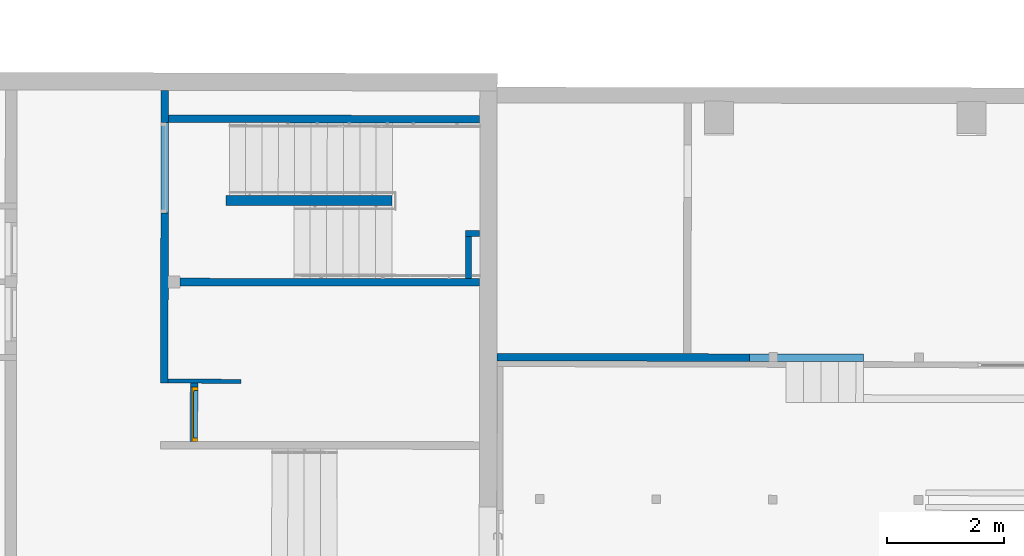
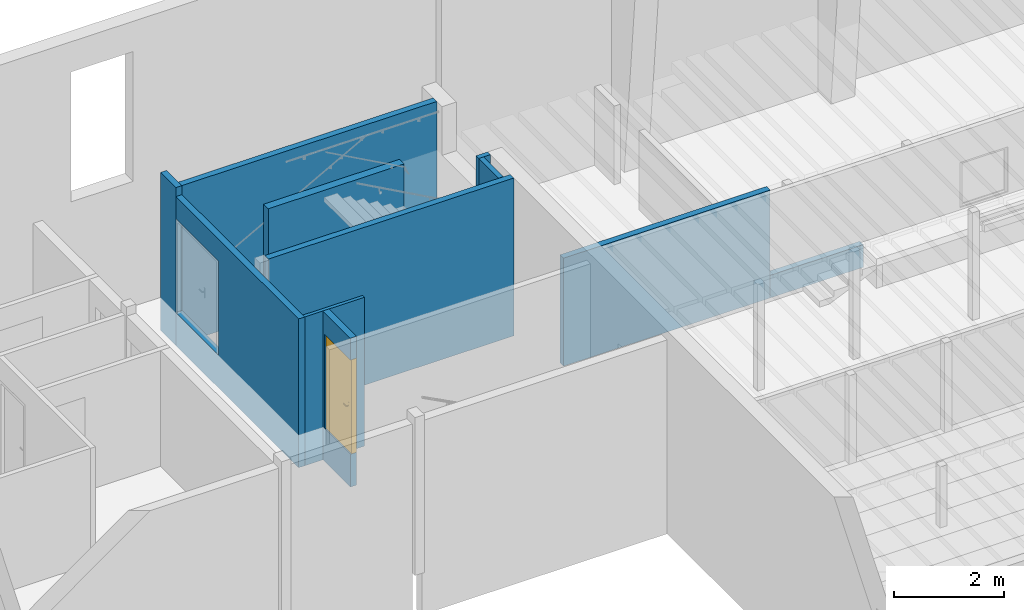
# One storey, part 8 of 24: 11 walls, 1 door, 3 openings.
"""IFC2X3 building model written with IfcOpenShell, lengths in metres."""

from ifc_helpers import new_model, entity, si_unit, converted_unit, derived_unit, direction, frame, frame_2d, origin, place, context, subcontext, project, spatial, polyline, rectangle, outline, extrude, clip, bounded_halfspace, faceted_brep, source, transform, mapped, material, material_list, layer, layer_set, layer_usage, type_object, type_shapes, element, fill, save


model = new_model("IFC2X3")

# Units and contexts
model_context = context("Model", 3, precision=1e-05, world=origin(), true_north=direction((6.123233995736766e-17, 1.0)))
body_context = subcontext(model_context, "Body", "Model", "MODEL_VIEW")
ifc_project = project(units=[si_unit("LENGTHUNIT", "METRE"), si_unit("AREAUNIT", "SQUARE_METRE"), converted_unit("PLANEANGLEUNIT", "DEGREE", entity("IfcPlaneAngleMeasure", 0.017453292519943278), si_unit("PLANEANGLEUNIT", "RADIAN"), dimensions=[0, 0, 0, 0, 0, 0, 0]), derived_unit("THERMALTRANSMITTANCEUNIT", [(si_unit("MASSUNIT", "GRAM", prefix="KILO"), 1), (si_unit("THERMODYNAMICTEMPERATUREUNIT", "KELVIN"), -1), (si_unit("TIMEUNIT", "SECOND"), -3)])], contexts=[model_context])

# Site, building, storey
site_placement = place(None, frame((1253.6752467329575, 2072.143113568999, 91.49999999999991), z_axis=(0.0, 0.0, 1.0), x_axis=(0.7237211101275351, 0.6900925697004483, 0.0)))
site = spatial("IfcSite", under=ifc_project, at=site_placement, Name="Surface", CompositionType="ELEMENT")
building_placement = place(site_placement, origin())
building = spatial("IfcBuilding", under=site, at=building_placement, CompositionType="ELEMENT")
storey_placement = place(building_placement, frame((0.0, 0.0, -7.049999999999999)))
storey = spatial("IfcBuildingStorey", under=building, at=storey_placement, Name="R-1", CompositionType="ELEMENT", Elevation=-7.049999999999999)

# Walls
ifc_material_1 = material(Name="OMD_Béton blanc")
ifc_layer_1 = layer(ifc_material_1, 0.12999999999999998)
ifc_layer_set_1 = layer_set([ifc_layer_1], Name="Mur de base:MUR 13")
ifc_layer_usage_1 = layer_usage(ifc_layer_set_1, "AXIS2", "NEGATIVE", 0.06499999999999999)
wall_type_1 = type_object("IfcWallType", Name="Mur de base:MUR 13", PredefinedType="STANDARD", material=ifc_layer_set_1)
wall_1_placement = place(storey_placement, frame((171.54955705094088, 21.444227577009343, 0.0), z_axis=(0.0, 0.0, 1.0), x_axis=(0.6909838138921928, 0.7228702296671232, 0.0)))
element("IfcWallStandardCase", 1, at=wall_1_placement, inside=storey, type_object=wall_type_1, material=ifc_layer_usage_1, Name="Mur de base:MUR 13", ObjectType="Mur de base:MUR 13", context=body_context, shape_type="SweptSolid", body=[
    extrude(outline(polyline([(-0.051578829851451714, -0.30688502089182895), (0.07842129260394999, -0.30688502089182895), (0.07765961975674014, 0.2480422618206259), (-0.05234025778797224, 0.2478638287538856), (-0.052161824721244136, 0.11786395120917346), (-0.051578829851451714, -0.30688502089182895)])), frame((0.24793543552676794, -0.013000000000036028, 0.0), z_axis=(0.0, 0.0, 1.0), x_axis=(0.0013725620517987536, 0.9999990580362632, 0.0)), (0.0, 0.0, 1.0), 3.499999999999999),
])
ifc_layer_usage_2 = layer_usage(ifc_layer_set_1, "AXIS2", "NEGATIVE", 0.06499999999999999)
wall_2_placement = place(storey_placement, frame((175.50226419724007, 17.755796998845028, 0.0), z_axis=(0.0, 0.0, 1.0), x_axis=(-0.7228702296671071, 0.6909838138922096, 0.0)))
element("IfcWallStandardCase", 2, at=wall_2_placement, inside=storey, type_object=wall_type_1, material=ifc_layer_usage_2, Name="Mur de base:MUR 13", ObjectType="Mur de base:MUR 13", context=body_context, shape_type="SweptSolid", body=[
    extrude(rectangle(XDim=5.340940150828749, YDim=0.12999999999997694, at=frame_2d((2.6704700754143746, 1.0547118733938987e-15), x_axis=(-1.0, 0.0))), origin(), (0.0, 0.0, 1.0), 3.499999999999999),
])
ifc_layer_usage_3 = layer_usage(ifc_layer_set_1, "AXIS2", "NEGATIVE", 0.06499999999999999)
wall_3_placement = place(storey_placement, frame((173.56750951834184, 15.731760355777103, 0.0), z_axis=(0.0, 0.0, 1.0), x_axis=(-0.7228702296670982, 0.6909838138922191, 0.0)))
element("IfcWallStandardCase", 3, at=wall_3_placement, inside=storey, type_object=wall_type_1, material=ifc_layer_usage_3, Name="Mur de base:MUR 13", ObjectType="Mur de base:MUR 13", context=body_context, shape_type="SweptSolid", body=[
    extrude(rectangle(XDim=5.140940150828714, YDim=0.1300000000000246, at=frame_2d((2.570470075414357, -6.314393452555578e-16), x_axis=(-1.0, 0.0))), origin(), (0.0, 0.0, 1.0), 3.499999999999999),
])
ifc_layer_usage_4 = layer_usage(ifc_layer_set_1, "AXIS2", "NEGATIVE", 0.06499999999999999)
wall_4_placement = place(storey_placement, frame((172.8964582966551, 14.5955789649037, 0.0), z_axis=(0.0, 0.0, 1.0), x_axis=(0.722870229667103, -0.6909838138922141, 0.0)))
element("IfcWallStandardCase", 4, at=wall_4_placement, inside=storey, type_object=wall_type_1, material=ifc_layer_usage_4, Name="Mur de base:MUR 13", ObjectType="Mur de base:MUR 13", context=body_context, shape_type="SweptSolid", body=[
    extrude(rectangle(XDim=4.333605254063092, YDim=0.13000000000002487, at=frame_2d((2.166802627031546, -7.7021722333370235e-16), x_axis=(-1.0, 0.0))), origin(), (0.0, 0.0, 1.0), 2.395000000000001),
])

# Wall, openings
ifc_layer_usage_5 = layer_usage(ifc_layer_set_1, "AXIS2", "POSITIVE", -0.06499999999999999)
wall_5_placement = place(storey_placement, frame((171.9330059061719, 21.845365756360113, 0.0), z_axis=(0.0, 0.0, 1.0), x_axis=(-0.6909838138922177, -0.7228702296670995, 0.0)))
wall_5 = element("IfcWallStandardCase", 5, at=wall_5_placement, inside=storey, type_object=wall_type_1, material=ifc_layer_usage_5, Name="Mur de base:MUR 13", ObjectType="Mur de base:MUR 13", context=body_context, shape_type="SweptSolid", body=[
    extrude(outline(polyline([(-0.07244415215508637, -2.0239981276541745), (0.05755633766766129, -2.0239981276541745), (0.05736417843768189, -1.9539981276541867), (0.04376181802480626, 3.001086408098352), (-0.08623818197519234, 3.000907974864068), (-0.07244415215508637, -2.0239981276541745)])), frame((3.0011334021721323, 0.013000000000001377, 0.0), z_axis=(0.0, 0.0, 1.0), x_axis=(0.0027451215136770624, 0.9999962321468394, 0.0)), (0.0, 0.0, 1.0), 3.2999999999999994),
])
opening_1_placement = place(storey_placement, frame((171.9330059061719, 21.845365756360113, 0.0), z_axis=(0.0, 0.0, 1.0), x_axis=(-0.6909838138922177, -0.7228702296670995, 0.0)))
element("IfcOpeningElement", 6, at=opening_1_placement, cuts=wall_5, Name="Mur de base:MUR 13:1", ObjectType="Opening", context=body_context, shape_type="SweptSolid", body=[
    extrude(rectangle(XDim=2.085, YDim=1.5499999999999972, at=frame_2d((-3.3306690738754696e-16, -3.164135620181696e-15), x_axis=(1.0, 0.0))), frame((1.3299250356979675, 0.06499999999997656, 1.7725), z_axis=(0.0, -1.0, 0.0), x_axis=(0.0, 0.0, 1.0)), (0.0, 0.0, 1.0), 0.13000000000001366),
])
opening_2_placement = place(wall_5_placement, frame((0.554925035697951, -0.06500000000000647, 0.7299999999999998)))
element("IfcOpeningElement", 7, at=opening_2_placement, cuts=wall_5, Name="OMD_Porte 2V tunnel:140x204:1", ObjectType="Opening", context=body_context, shape_type="SweptSolid", body=[
    extrude(rectangle(XDim=2.085, YDim=1.5499999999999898, at=frame_2d((1.0425, 0.7749999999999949), x_axis=(1.0, 0.0))), frame((0.0, 0.0, 0.0), z_axis=(0.0, 1.0, 0.0), x_axis=(0.0, 0.0, 1.0)), (0.0, 0.0, 1.0), 0.12999999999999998),
])

# Wall, opening, door
wall_6_placement = place(storey_placement, frame((168.13635503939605, 17.139570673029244, 0.0), z_axis=(0.0, 0.0, 1.0), x_axis=(0.6929655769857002, 0.7209706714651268, 0.0)))
wall_6 = element("IfcWall", 8, at=wall_6_placement, inside=storey, type_object=wall_type_1, Name="Mur de base:MUR 13", ObjectType="Mur de base:MUR 13", context=body_context, shape_type="Brep", body=[
    faceted_brep([(0.9986040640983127, -0.06500000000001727, 3.2999999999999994), (0.00035686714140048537, -0.06500000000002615, 3.2999999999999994), (0.0003568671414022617, -0.0650000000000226, 2.815000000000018), (0.9336040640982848, -0.06500000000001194, 2.815000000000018), (0.9336040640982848, -0.06500000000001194, 0.7299999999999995), (0.00035686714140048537, -0.06500000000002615, 0.7299999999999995), (0.00035686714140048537, -0.06500000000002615, 0.0), (0.9986040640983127, -0.06500000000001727, 0.0), (0.0, 0.06499999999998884, 3.2999999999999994), (0.9986040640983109, 0.06500000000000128, 3.2999999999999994), (0.9986040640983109, 0.06500000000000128, 0.0), (0.0, 0.06499999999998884, 0.0), (0.0, 0.06499999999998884, 0.7299999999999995), (0.9336040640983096, 0.0649999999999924, 0.7299999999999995), (0.933604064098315, 0.06499999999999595, 2.815000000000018), (0.0, 0.06499999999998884, 2.815000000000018)], [[[0, 1, 2, 3, 4, 5, 6, 7]], [[8, 9, 10, 11, 12, 13, 14, 15]], [[1, 0, 9, 8]], [[7, 6, 11, 10]], [[11, 6, 5, 12]], [[0, 7, 10, 9]], [[14, 3, 2, 15]], [[3, 14, 13, 4]], [[4, 13, 12, 5]], [[1, 8, 15, 2]]]),
])
opening_3_placement = place(wall_6_placement, frame((-0.0013959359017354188, -0.06500000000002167, 0.7299999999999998)))
opening_3 = element("IfcOpeningElement", 9, at=opening_3_placement, cuts=wall_6, Name="OMD_Porte 1V tunnel:80x204:1", ObjectType="Opening", context=body_context, shape_type="SweptSolid", body=[
    extrude(rectangle(XDim=2.0850000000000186, YDim=0.9349999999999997, at=frame_2d((1.0425000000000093, 0.4675000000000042), x_axis=(1.0, 0.0))), frame((0.0, 0.0, 0.0), z_axis=(0.0, 1.0, 0.0), x_axis=(0.0, 0.0, 1.0)), (0.0, 0.0, 1.0), 0.12999999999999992),
])
ifc_material_2 = material(Name="Porte - Poignée")
ifc_material_3 = material(Name="OMD_Peinture mur")
ifc_material_4 = material(Name="OMD_Bois")
ifc_material_list = material_list([ifc_material_2, ifc_material_3, ifc_material_4])
door_style = type_object("IfcDoorStyle", Name="OMD_Porte 1V tunnel:80x204", ConstructionType="NOTDEFINED", OperationType="NOTDEFINED", ParameterTakesPrecedence=False, Sizeable=False, material=ifc_material_list)
shared_shape = source(origin(), body_context, "Body", "Brep", [
    faceted_brep([(0.8220252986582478, 0.06500000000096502, 1.0077804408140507), (0.8179747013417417, 0.06500000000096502, 1.007780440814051), (0.8139999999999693, 0.06500000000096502, 1.00699999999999), (0.8139999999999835, 0.06500000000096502, 0.9930000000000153), (0.8179747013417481, 0.06500000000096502, 0.9922195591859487), (0.8220252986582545, 0.06500000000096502, 0.9922195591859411), (0.8260000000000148, 0.06500000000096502, 0.9929999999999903), (0.826000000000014, 0.06500000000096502, 1.006999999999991), (0.8139999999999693, 0.08748520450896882, 1.00699999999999), (0.8139999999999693, 0.08748520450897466, 0.9930000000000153), (0.8179747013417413, 0.08913157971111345, 1.007780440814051), (0.8220252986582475, 0.09080939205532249, 1.0077804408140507), (0.8058389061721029, 0.10699578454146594, 1.0077804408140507), (0.8041610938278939, 0.10294518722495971, 1.007780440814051), (0.7207931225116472, 0.10294518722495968, 1.0077804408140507), (0.7191153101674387, 0.10699578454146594, 1.0077804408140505), (0.7114510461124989, 0.09933152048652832, 1.0077804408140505), (0.714315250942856, 0.09646731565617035, 1.0077804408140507), (0.8260000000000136, 0.09245576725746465, 1.006999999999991), (0.8260000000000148, 0.09245576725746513, 0.9929999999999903), (0.8220252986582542, 0.0908093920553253, 0.9922195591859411), (0.8179747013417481, 0.08913157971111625, 0.9922195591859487), (0.8041610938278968, 0.10294518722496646, 0.9922195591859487), (0.8058389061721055, 0.1069957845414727, 0.9922195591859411), (0.7191153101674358, 0.10699578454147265, 0.9922195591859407), (0.7207931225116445, 0.10294518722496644, 0.9922195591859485), (0.7143152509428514, 0.09646731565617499, 0.9922195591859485), (0.7114510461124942, 0.09933152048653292, 0.9922195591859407), (0.8025147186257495, 0.09897048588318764, 1.00699999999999), (0.8025147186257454, 0.09897048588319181, 0.9930000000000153), (0.8074852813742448, 0.11097048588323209, 1.006999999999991), (0.8074852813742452, 0.11097048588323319, 0.9929999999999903), (0.7624771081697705, 0.09897048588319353, 1.0069999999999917), (0.7224394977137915, 0.09897048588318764, 1.0069999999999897), (0.7224394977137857, 0.09897048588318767, 0.9930000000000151), (0.7624771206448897, 0.09897048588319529, 0.9930000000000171), (0.7624771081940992, 0.10512492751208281, 1.0078781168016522), (0.7573994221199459, 0.1109704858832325, 1.0069999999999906), (0.7174689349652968, 0.11097048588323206, 1.0069999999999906), (0.7675547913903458, 0.11097048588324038, 0.9929999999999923), (0.7174689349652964, 0.11097048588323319, 0.99299999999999), (0.762477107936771, 0.10512492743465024, 0.9921218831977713), (0.7086405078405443, 0.10214205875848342, 1.0069999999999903), (0.7086405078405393, 0.10214205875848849, 0.9929999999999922), (0.7171257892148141, 0.09365677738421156, 0.9930000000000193), (0.71712578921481, 0.09365677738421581, 1.0069999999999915)], [[[0, 1, 2, 3, 4, 5, 6, 7]], [[8, 9, 3, 2]], [[1, 10, 8, 2]], [[1, 0, 11, 12, 13, 10]], [[14, 15, 16, 17]], [[7, 18, 11, 0]], [[18, 7, 6, 19]], [[6, 5, 20, 19]], [[5, 4, 21, 22, 23, 20]], [[24, 25, 26, 27]], [[4, 3, 9, 21]], [[28, 29, 9, 8]], [[8, 10, 13, 28]], [[18, 30, 12, 11]], [[31, 30, 18, 19]], [[19, 20, 23, 31]], [[21, 9, 29, 22]], [[29, 28, 32, 33, 34, 35]], [[36, 32, 13]], [[37, 38, 15]], [[37, 12, 30]], [[36, 12, 37]], [[14, 32, 36]], [[36, 15, 14]], [[28, 13, 32]], [[32, 14, 33]], [[12, 36, 13]], [[15, 36, 37]], [[30, 31, 39, 40, 38, 37]], [[23, 41, 39]], [[24, 39, 41]], [[39, 31, 23]], [[39, 24, 40]], [[22, 35, 41]], [[41, 23, 22]], [[41, 35, 25]], [[35, 22, 29]], [[34, 25, 35]], [[24, 41, 25]], [[17, 16, 42, 43, 27, 26, 44, 45]], [[45, 44, 34, 33]], [[33, 14, 17, 45]], [[15, 38, 42, 16]], [[43, 42, 38, 40]], [[24, 27, 43, 40]], [[34, 44, 26, 25]]]),
    faceted_brep([(0.817974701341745, 0.02500000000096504, 1.007780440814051), (0.8220252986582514, 0.02500000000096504, 1.0077804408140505), (0.8260000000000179, 0.02500000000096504, 1.0069999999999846), (0.8260000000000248, 0.02500000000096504, 0.9929999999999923), (0.8220252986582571, 0.02500000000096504, 0.992219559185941), (0.817974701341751, 0.02500000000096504, 0.9922195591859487), (0.8139999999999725, 0.02500000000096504, 0.9930000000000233), (0.8139999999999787, 0.02500000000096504, 1.006999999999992), (0.8220252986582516, -0.0010045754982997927, 1.0077804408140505), (0.8260000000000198, -0.002650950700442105, 1.0069999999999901), (0.8179747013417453, 0.0006732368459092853, 1.007780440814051), (0.8042986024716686, -0.013002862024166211, 1.007780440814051), (0.8059764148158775, -0.017053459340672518, 1.0077804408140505), (0.7191424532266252, -0.017053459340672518, 1.0077804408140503), (0.7208202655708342, -0.013002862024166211, 1.0077804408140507), (0.714342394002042, -0.006524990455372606, 1.0077804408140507), (0.7114781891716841, -0.009389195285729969, 1.0077804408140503), (0.813999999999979, 0.002319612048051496, 1.006999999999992), (0.8139999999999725, 0.0023196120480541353, 0.9930000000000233), (0.817974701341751, 0.0006732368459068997, 0.9922195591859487), (0.8220252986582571, -0.0010045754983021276, 0.992219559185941), (0.8059764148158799, -0.017053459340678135, 0.992219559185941), (0.804298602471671, -0.013002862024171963, 0.9922195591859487), (0.7208202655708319, -0.013002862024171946, 0.9922195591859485), (0.7191424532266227, -0.017053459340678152, 0.9922195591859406), (0.71147818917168, -0.009389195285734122, 0.9922195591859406), (0.7143423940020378, -0.0065249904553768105, 0.9922195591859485), (0.8260000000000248, -0.0026509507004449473, 0.9929999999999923), (0.807622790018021, -0.021028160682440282, 1.0069999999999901), (0.8026522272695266, -0.009028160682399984, 1.006999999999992), (0.8026522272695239, -0.009028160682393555, 0.9930000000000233), (0.8076227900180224, -0.021028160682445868, 0.9929999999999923), (0.762559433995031, -0.01518280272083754, 1.0078781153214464), (0.7676923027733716, -0.021028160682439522, 1.0069999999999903), (0.7174960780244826, -0.021028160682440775, 1.00699999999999), (0.7625594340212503, -0.00902816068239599, 1.0069999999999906), (0.7224666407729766, -0.009028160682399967, 1.0069999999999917), (0.7625594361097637, -0.00902816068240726, 0.9930000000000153), (0.7224666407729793, -0.009028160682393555, 0.9930000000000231), (0.7625594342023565, -0.015182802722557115, 0.9921218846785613), (0.7574265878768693, -0.02102816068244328, 0.9929999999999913), (0.7174960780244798, -0.021028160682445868, 0.9929999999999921), (0.7171529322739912, -0.0037144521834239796, 0.9930000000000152), (0.7086676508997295, -0.012199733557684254, 0.9929999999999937), (0.7086676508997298, -0.012199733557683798, 1.0069999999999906), (0.717152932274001, -0.003714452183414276, 1.0069999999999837)], [[[0, 1, 2, 3, 4, 5, 6, 7]], [[2, 1, 8, 9]], [[1, 0, 10, 11, 12, 8]], [[13, 14, 15, 16]], [[0, 7, 17, 10]], [[18, 17, 7, 6]], [[5, 19, 18, 6]], [[5, 4, 20, 21, 22, 19]], [[23, 24, 25, 26]], [[3, 27, 20, 4]], [[9, 27, 3, 2]], [[9, 8, 12, 28]], [[10, 17, 29, 11]], [[30, 29, 17, 18]], [[18, 19, 22, 30]], [[20, 27, 31, 21]], [[28, 31, 27, 9]], [[12, 32, 33]], [[13, 33, 32]], [[33, 28, 12]], [[33, 13, 34]], [[11, 35, 32]], [[32, 12, 11]], [[32, 35, 14]], [[35, 11, 29]], [[36, 14, 35]], [[13, 32, 14]], [[29, 30, 37, 38, 36, 35]], [[39, 37, 22]], [[40, 41, 24]], [[40, 21, 31]], [[39, 21, 40]], [[23, 37, 39]], [[39, 24, 23]], [[30, 22, 37]], [[37, 23, 38]], [[21, 39, 22]], [[24, 39, 40]], [[31, 28, 33, 34, 41, 40]], [[42, 26, 25, 43, 44, 16, 15, 45]], [[13, 16, 44, 34]], [[36, 45, 15, 14]], [[42, 45, 36, 38]], [[38, 23, 26, 42]], [[24, 41, 43, 25]], [[44, 43, 41, 34]]]),
    faceted_brep([(0.8199999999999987, 0.06000000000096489, 0.8646410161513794), (0.8303527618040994, 0.06000000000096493, 0.866003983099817), (0.8399999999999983, 0.06000000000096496, 0.8700000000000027), (0.8399999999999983, 0.06000000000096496, 1.0800000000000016), (0.8303527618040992, 0.06000000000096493, 1.0839960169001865), (0.8199999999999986, 0.06000000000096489, 1.0853589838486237), (0.809647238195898, 0.06000000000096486, 1.0839960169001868), (0.7999999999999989, 0.06000000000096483, 1.0800000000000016), (0.7999999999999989, 0.06000000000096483, 0.8700000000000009), (0.8096472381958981, 0.06000000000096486, 0.8660039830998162), (0.8199999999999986, 0.0650000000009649, 1.0853589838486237), (0.8303527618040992, 0.06500000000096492, 1.0839960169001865), (0.8399999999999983, 0.06500000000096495, 1.0800000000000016), (0.8399999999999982, 0.06500000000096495, 0.8700000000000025), (0.8303527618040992, 0.06500000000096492, 0.866003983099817), (0.8199999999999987, 0.0650000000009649, 0.8646410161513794), (0.8096472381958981, 0.06500000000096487, 0.8660039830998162), (0.7999999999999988, 0.06500000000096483, 0.8700000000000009), (0.7999999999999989, 0.06500000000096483, 1.0800000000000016), (0.809647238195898, 0.06500000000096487, 1.0839960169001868)], [[[0, 1, 2, 3, 4, 5, 6, 7, 8, 9]], [[10, 11, 12, 13, 14, 15, 16, 17, 18, 19]], [[6, 19, 18, 7]], [[5, 10, 19, 6]], [[4, 11, 10, 5]], [[4, 3, 12, 11]], [[12, 3, 2, 13]], [[1, 14, 13, 2]], [[0, 15, 14, 1]], [[9, 16, 15, 0]], [[9, 8, 17, 16]], [[17, 8, 7, 18]]]),
    faceted_brep([(0.819999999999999, 0.025000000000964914, 0.8646410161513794), (0.8303527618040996, 0.025000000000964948, 0.8660039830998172), (0.8399999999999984, 0.02500000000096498, 0.8700000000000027), (0.8399999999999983, 0.02500000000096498, 1.0800000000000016), (0.8303527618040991, 0.025000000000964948, 1.0839960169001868), (0.8199999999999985, 0.025000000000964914, 1.0853589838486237), (0.8096472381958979, 0.02500000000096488, 1.0839960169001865), (0.7999999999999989, 0.025000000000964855, 1.0800000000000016), (0.7999999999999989, 0.025000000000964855, 0.8700000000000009), (0.8096472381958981, 0.02500000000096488, 0.8660039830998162), (0.8399999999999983, 0.030000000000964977, 1.0800000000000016), (0.8399999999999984, 0.030000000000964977, 0.8700000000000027), (0.8303527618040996, 0.030000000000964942, 0.8660039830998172), (0.819999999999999, 0.030000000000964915, 0.8646410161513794), (0.8096472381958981, 0.03000000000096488, 0.8660039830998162), (0.7999999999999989, 0.030000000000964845, 0.8700000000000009), (0.7999999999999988, 0.030000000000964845, 1.0800000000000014), (0.8096472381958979, 0.03000000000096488, 1.0839960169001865), (0.8199999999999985, 0.030000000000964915, 1.0853589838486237), (0.8303527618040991, 0.030000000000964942, 1.0839960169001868)], [[[0, 1, 2, 3, 4, 5, 6, 7, 8, 9]], [[10, 11, 12, 13, 14, 15, 16, 17, 18, 19]], [[1, 12, 11, 2]], [[0, 13, 12, 1]], [[9, 14, 13, 0]], [[9, 8, 15, 14]], [[15, 8, 7, 16]], [[6, 17, 16, 7]], [[5, 18, 17, 6]], [[4, 19, 18, 5]], [[4, 3, 10, 19]], [[10, 3, 2, 11]]]),
    faceted_brep([(0.89, 0.060000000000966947, 0.0), (0.89, 0.030000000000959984, 0.0), (0.04500000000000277, 0.030000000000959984, 0.0), (0.04500000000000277, 0.060000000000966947, 0.0), (0.89, 0.060000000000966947, 2.04), (0.89, 0.030000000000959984, 2.04), (0.04500000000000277, 0.030000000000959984, 2.04), (0.04500000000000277, 0.060000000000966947, 2.04)], [[[0, 1, 2, 3]], [[4, 5, 1, 0]], [[5, 6, 2, 1]], [[6, 7, 3, 2]], [[7, 4, 0, 3]], [[4, 7, 6, 5]]]),
    faceted_brep([(0.9350000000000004, 0.030000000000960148, 0.0), (0.8900000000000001, 0.0300000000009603, 0.0), (0.8900000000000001, 0.06000000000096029, 0.0), (0.8750000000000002, 0.06000000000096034, 0.0), (0.8750000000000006, 0.13000000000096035, 0.0), (0.9350000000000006, 0.13000000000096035, 0.0), (0.9350000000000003, 0.030000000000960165, 2.085), (0.0, 0.030000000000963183, 2.085), (0.0, 0.030000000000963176, 0.0), (0.04500000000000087, 0.030000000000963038, 0.0), (0.04500000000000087, 0.03000000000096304, 2.0399999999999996), (0.8900000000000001, 0.0300000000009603, 2.04), (0.8900000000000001, 0.06000000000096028, 2.04), (0.045000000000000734, 0.06000000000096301, 2.0399999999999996), (0.04500000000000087, 0.06000000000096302, 0.0), (0.060000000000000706, 0.06000000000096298, 0.0), (0.060000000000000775, 0.06000000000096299, 2.025), (0.8750000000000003, 0.06000000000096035, 2.0250000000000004), (0.8750000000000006, 0.13000000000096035, 2.0250000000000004), (0.060000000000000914, 0.13000000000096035, 2.025), (0.060000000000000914, 0.13000000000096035, 0.0), (0.0, 0.13000000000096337, 0.0), (0.0, 0.13000000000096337, 2.085), (0.9350000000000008, 0.13000000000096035, 2.0850000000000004)], [[[0, 1, 2, 3, 4, 5]], [[1, 0, 6, 7, 8, 9, 10, 11]], [[2, 1, 11, 12]], [[3, 2, 12, 13, 14, 15, 16, 17]], [[4, 3, 17, 18]], [[5, 4, 18, 19, 20, 21, 22, 23]], [[0, 5, 23, 6]], [[7, 22, 21, 8]], [[8, 21, 20, 15, 14, 9]], [[13, 10, 9, 14]], [[19, 16, 15, 20]], [[12, 11, 10, 13]], [[18, 17, 16, 19]], [[6, 23, 22, 7]]]),
])
type_shapes(door_style, [shared_shape])
door_placement = place(opening_3_placement, frame((0.9349999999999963, 0.13000000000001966, 0.0), z_axis=(0.0, 0.0, 1.0), x_axis=(-1.0, 0.0, 0.0)))
door = element("IfcDoor", 10, at=door_placement, inside=storey, type_object=door_style, material=ifc_material_list, Name="OMD_Porte 1V tunnel:80x204", ObjectType="OMD_Porte 1V tunnel:80x204", OverallHeight=2.0850000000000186, OverallWidth=0.9349999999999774, context=body_context, shape_type="MappedRepresentation", body=[
    mapped(shared_shape, transform((0.0, 0.0, 0.0), scale=1.0)),
])
fill(opening_3, door)

# Walls
ifc_layer_usage_6 = layer_usage(ifc_layer_set_1, "AXIS2", "NEGATIVE", 0.06499999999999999)
wall_7_placement = place(storey_placement, frame((177.4426997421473, 10.249876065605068, 0.0), z_axis=(0.0, 0.0, 1.0), x_axis=(-0.7228702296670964, 0.6909838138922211, 0.0)))
element("IfcWallStandardCase", 11, at=wall_7_placement, inside=storey, type_object=wall_type_1, material=ifc_layer_usage_6, Name="Mur de base:MUR 13", ObjectType="Mur de base:MUR 13", context=body_context, shape_type="Clipping", body=[
    clip(extrude(outline(polyline([(0.0, -0.06499999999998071), (6.289152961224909, -0.06499999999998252), (6.289152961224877, 0.06499999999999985), (0.13008933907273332, 0.06500000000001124), (0.000178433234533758, 0.06500000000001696), (0.0, -0.06499999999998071)])), origin(), (0.0, 0.0, 1.0), 0.49999999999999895), bounded_halfspace(frame((0.0, -0.06499999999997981, 0.49999999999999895), z_axis=(0.0, 0.0, -1.0), x_axis=(0.0, -1.0, 0.0)), True, frame((0.0, -0.06499999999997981, 0.49999999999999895)), polyline([(0.0, 0.0), (6.289152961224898, 0.0), (6.28915296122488, 0.12999999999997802), (0.1300893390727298, 0.12999999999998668), (0.0001784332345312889, 0.13000000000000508), (0.0, 0.0)]))),
])
ifc_layer_2 = layer(ifc_material_1, 0.17)
ifc_layer_set_2 = layer_set([ifc_layer_2], Name="Mur de base:MUR 17")
ifc_layer_usage_7 = layer_usage(ifc_layer_set_2, "AXIS2", "NEGATIVE", 0.085)
wall_type_2 = type_object("IfcWallType", Name="Mur de base:MUR 17", PredefinedType="STANDARD", material=ifc_layer_set_2)
wall_8_placement = place(storey_placement, frame((173.44990190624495, 17.78090402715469, 0.0), z_axis=(0.0, 0.0, 1.0), x_axis=(-0.722870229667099, 0.6909838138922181, 0.0)))
element("IfcWallStandardCase", 12, at=wall_8_placement, inside=storey, type_object=wall_type_2, material=ifc_layer_usage_7, Name="Mur de base:MUR 17", ObjectType="Mur de base:MUR 17", context=body_context, shape_type="SweptSolid", body=[
    extrude(rectangle(XDim=2.850000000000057, YDim=0.17000000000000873, at=frame_2d((1.4250000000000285, -1.5126788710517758e-15), x_axis=(-1.0, 0.0))), origin(), (0.0, 0.0, 1.0), 3.499999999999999),
])
ifc_layer_3 = layer(ifc_material_1, 0.07)
ifc_layer_set_3 = layer_set([ifc_layer_3], Name="Mur de base:MUR 7")
ifc_layer_usage_8 = layer_usage(ifc_layer_set_3, "AXIS2", "POSITIVE", -0.035)
wall_type_3 = type_object("IfcWallType", Name="Mur de base:MUR 7", PredefinedType="STANDARD", material=ifc_layer_set_3)
wall_9_placement = place(storey_placement, frame((169.43307079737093, 17.326852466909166, 0.0), z_axis=(0.0, 0.0, 1.0), x_axis=(-0.7209706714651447, 0.6929655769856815, 0.0)))
element("IfcWallStandardCase", 13, at=wall_9_placement, inside=storey, type_object=wall_type_3, material=ifc_layer_usage_8, Name="Mur de base:MUR 7", ObjectType="Mur de base:MUR 7", context=body_context, shape_type="SweptSolid", body=[
    extrude(outline(polyline([(-0.048217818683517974, -0.5649915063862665), (0.021782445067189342, -0.5649915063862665), (0.02282527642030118, -0.18510762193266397), (0.023182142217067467, -0.055108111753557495), (0.02521384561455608, 0.6850032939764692), (-0.04478589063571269, 0.6851954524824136), (-0.048217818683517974, -0.5649915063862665)])), frame((0.6850699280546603, 0.011666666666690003, 0.0), z_axis=(0.0, 0.0, 1.0), x_axis=(-0.0027451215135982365, 0.9999962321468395, 0.0)), (0.0, 0.0, 1.0), 3.2999999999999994),
])
ifc_material_5 = material(Name="OMD_Cloison 100mm CF1h")
ifc_layer_4 = layer(ifc_material_5, 0.1)
ifc_layer_set_4 = layer_set([ifc_layer_4], Name="Mur de base:Cloison 100mm CF1h")
ifc_layer_usage_9 = layer_usage(ifc_layer_set_4, "AXIS2", "POSITIVE", -0.05)
wall_type_4 = type_object("IfcWallType", Name="Mur de base:Cloison 100mm CF1h", PredefinedType="STANDARD", material=ifc_layer_set_4)
wall_10_placement = place(storey_placement, frame((174.14720211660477, 16.33818659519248, 0.7299999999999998), z_axis=(0.0, 0.0, 1.0), x_axis=(-0.7227070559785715, 0.6911544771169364, 0.0)))
element("IfcWallStandardCase", 14, at=wall_10_placement, inside=storey, type_object=wall_type_4, material=ifc_layer_usage_9, Name="Mur de base:Cloison 100mm CF1h", ObjectType="Mur de base:Cloison 100mm CF1h", context=body_context, shape_type="SweptSolid", body=[
    extrude(outline(polyline([(0.24086369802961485, -0.05000000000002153), (0.2408636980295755, 0.04999999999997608), (0.14086369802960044, 0.04999999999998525), (0.0, 0.04999999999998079), (2.3611774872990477e-05, -0.050000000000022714), (0.24086369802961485, -0.05000000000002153)])), origin(), (0.0, 0.0, 1.0), 2.769999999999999),
])
ifc_layer_usage_10 = layer_usage(ifc_layer_set_4, "AXIS2", "POSITIVE", -0.05)
wall_11_placement = place(storey_placement, frame((173.9747058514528, 16.43396754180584, 0.7299999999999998), z_axis=(0.0, 0.0, 1.0), x_axis=(-0.6911544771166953, -0.7227070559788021, 0.0)))
element("IfcWallStandardCase", 15, at=wall_11_placement, inside=storey, type_object=wall_type_4, material=ifc_layer_usage_10, Name="Mur de base:Cloison 100mm CF1h", ObjectType="Mur de base:Cloison 100mm CF1h", context=body_context, shape_type="SweptSolid", body=[
    extrude(rectangle(XDim=0.7216320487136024, YDim=0.10000000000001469, at=frame_2d((0.3608160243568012, 7.7021722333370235e-16), x_axis=(-1.0, 0.0))), origin(), (0.0, 0.0, 1.0), 2.769999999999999),
])

save(model, "model.ifc")
